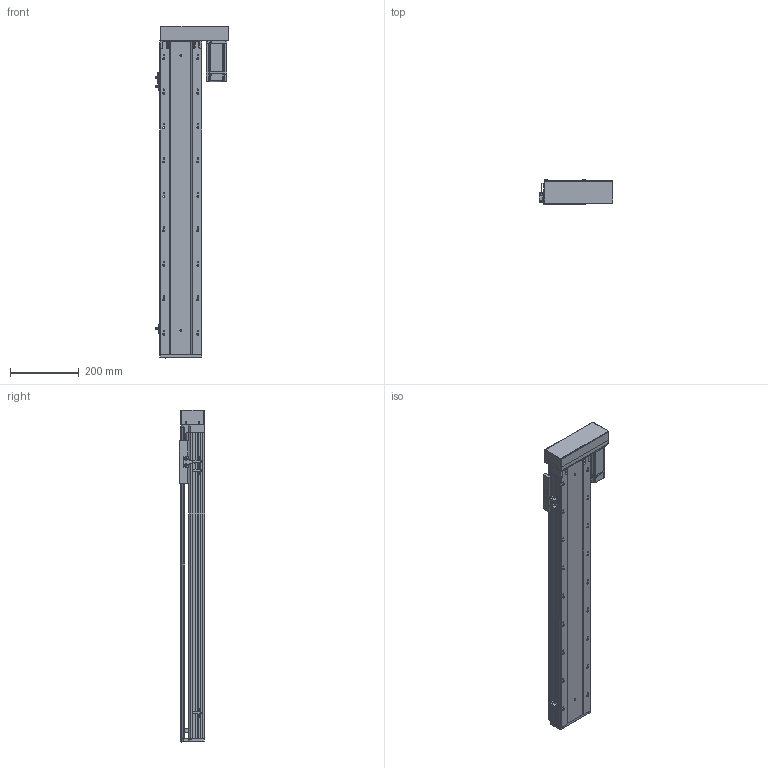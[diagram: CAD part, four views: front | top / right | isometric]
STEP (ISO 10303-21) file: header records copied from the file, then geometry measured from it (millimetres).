
FILE_DESCRIPTION (( 'STEP AP203' ), '1' );
FILE_NAME ('RY120-L2020-300-RK.SLDASM_700.step', '2021-03-12T07:14:37', ( '盈信电脑' ), ( '东莞市道滘镇水果街19号' ), 'SwSTEP 2.0', 'SolidWorks 2012', '' );
FILE_SCHEMA (( 'CONFIG_CONTROL_DESIGN' ));
Length unit declared in the file: millimetre
Products named in the file (15): 侂狟400W侜督萇儂; RY120蛌殏萇儂欶; RY120-400W萇儂傷-酘衵殏_450; RY120-L2020-300-RK.SLDASM_700; RY120转拆电端丝杆支撑座(20丝杆，7002轴承); RY120酘殏萇儂假蚾啣; 15; RY120外置感应片(140共用）; 覜茼ん672; 滅袉蝶18-10; 滅袉蝶18-24; RY120-300-RK蛌殏倰第菁釱_700; RY120綴裔啣; RY120-300-RK蛌殏倰第奻裔啣_700; RY120臏賑輸(20蹟譫)
Assembly tree (17 placements, depth 4):
  RY120-L2020-300-RK.SLDASM_700
    RY120-300-RK蛌殏倰第菁釱_700
    RY120-300-RK蛌殏倰第奻裔啣_700
    RY120臏賑輸(20蹟譫)
    RY120綴裔啣
    覜茼ん672  x3
    滅袉蝶18-10
    滅袉蝶18-24  x2
    RY120外置感应片(140共用）
    RY120转拆电端丝杆支撑座(20丝杆，7002轴承)
    RY120-400W萇儂傷-酘衵殏_450
      RY120酘殏萇儂假蚾啣
      侂狟400W侜督萇儂
        15
      RY120蛌殏萇儂欶
Bounding box: 214.2 x 73 x 964 mm (x, y, z)
Volume: 2885752.7 mm3; surface area: 1057607.8 mm2
Topology: 16 solids, 16 shells, 2520 faces, 6947 edges, 4448 vertices
Faces by surface type: plane 1236, cylinder 956, cone 223, bspline 105
Entity records: 84027 total; most frequent: CARTESIAN_POINT 23907, ORIENTED_EDGE 12582, DIRECTION 11555, EDGE_CURVE 6291, VERTEX_POINT 4116, AXIS2_PLACEMENT_3D 3853, LINE 3849, VECTOR 3849
